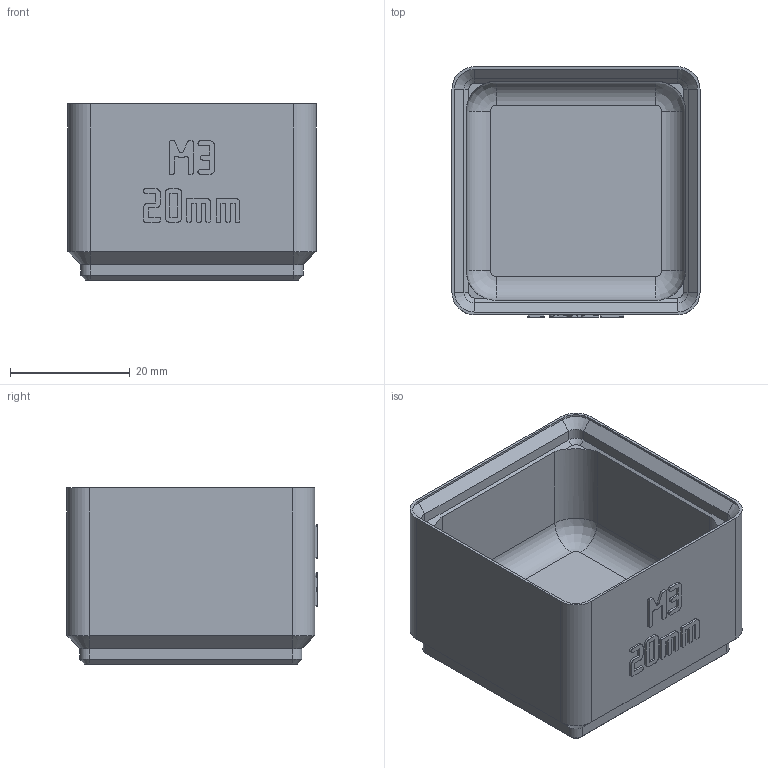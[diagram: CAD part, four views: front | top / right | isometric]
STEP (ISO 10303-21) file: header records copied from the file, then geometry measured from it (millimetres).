
FILE_DESCRIPTION(('Open CASCADE Model'),'2;1');
FILE_NAME('Open CASCADE Shape Model','2026-11-03T10:23:33',('Author'),( 'Open CASCADE'),'Open CASCADE STEP processor 8.0','build123d', 'Unknown');
FILE_SCHEMA(('AUTOMOTIVE_DESIGN { 1 0 10303 214 1 1 1 1 }'));
Length unit declared in the file: millimetre
Products named in the file (1): COMPOUND
Bounding box: 41.5 x 41.9 x 29.5 mm (x, y, z)
Volume: 18940.5 mm3; surface area: 10648.1 mm2
Topology: 1 solids, 1 shells, 674 faces, 1936 edges, 1272 vertices
Faces by surface type: plane 630, cylinder 24, cone 16, revolution 4
Entity records: 45510 total; most frequent: CARTESIAN_POINT 9271, DIRECTION 5846, LINE 4344, VECTOR 4344, ORIENTED_EDGE 3872, PCURVE 3872, DEFINITIONAL_REPRESENTATION 3872, EDGE_CURVE 1936
